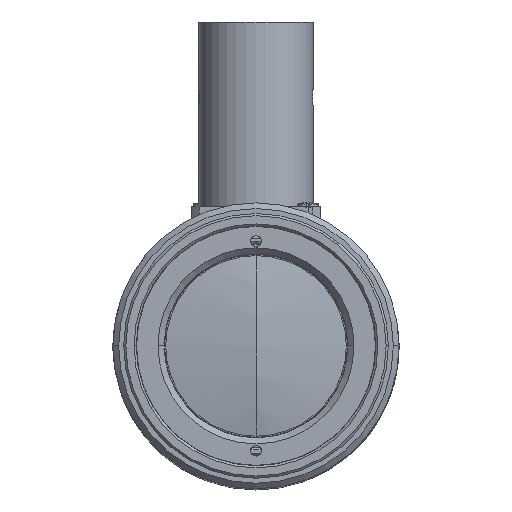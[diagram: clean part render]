
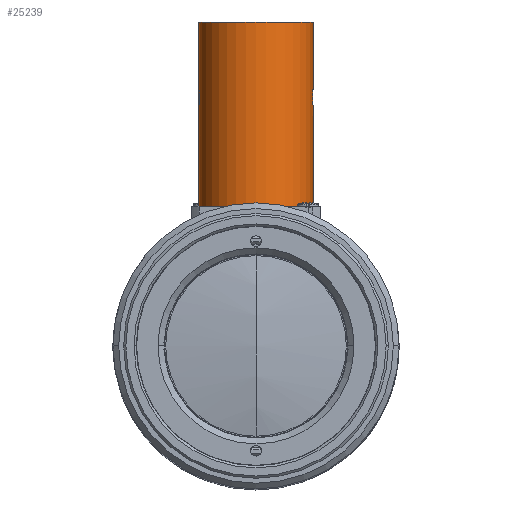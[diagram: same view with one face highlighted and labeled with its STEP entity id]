
A CAD part, top view. The second image highlights one B-rep face of the part: STEP entity #25239.
In plain terms, the highlighted cylindrical face has radius 8 mm (diameter 16 mm), a partial arc.
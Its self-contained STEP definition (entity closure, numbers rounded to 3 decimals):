
#488 = CARTESIAN_POINT ( 'NONE',  ( -7.964, 35.871, 13.29 ) ) ;
#774 = VECTOR ( 'NONE', #19567, 1000. ) ;
#1233 = CARTESIAN_POINT ( 'NONE',  ( 7.995, 33.637, 12.828 ) ) ;
#1378 = CARTESIAN_POINT ( 'NONE',  ( 7.907, 35.181, 13.718 ) ) ;
#1747 = CARTESIAN_POINT ( 'NONE',  ( -7.991, 33.663, 12.893 ) ) ;
#1808 = CARTESIAN_POINT ( 'NONE',  ( -8., 19.5, 12.5 ) ) ;
#1843 = VERTEX_POINT ( 'NONE', #9843 ) ;
#1886 = CARTESIAN_POINT ( 'NONE',  ( -7.998, 33.616, 12.699 ) ) ;
#2045 = CARTESIAN_POINT ( 'NONE',  ( -8., 33.604, 12.5 ) ) ;
#2373 = CARTESIAN_POINT ( 'NONE',  ( 0., 45.354, 12.5 ) ) ;
#2398 = EDGE_CURVE ( 'NONE', #19434, #10441, #12932, .T. ) ;
#2631 = LINE ( 'NONE', #22049, #14152 ) ;
#3216 = ORIENTED_EDGE ( 'NONE', *, *, #15074, .T. ) ;
#3239 = CARTESIAN_POINT ( 'NONE',  ( 8., 36.104, 12.5 ) ) ;
#3260 = CARTESIAN_POINT ( 'NONE',  ( -7.998, 36.092, 12.698 ) ) ;
#3520 = CARTESIAN_POINT ( 'NONE',  ( 7.964, 33.854, 13.268 ) ) ;
#3686 = CARTESIAN_POINT ( 'NONE',  ( -8., 36.104, 12.599 ) ) ;
#3815 = CARTESIAN_POINT ( 'NONE',  ( 0., 10.5, 12.5 ) ) ;
#5455 = B_SPLINE_CURVE_WITH_KNOTS ( 'NONE', 3,
 ( #20156, #488, #17725, #9046, #20449, #9181, #15550, #15823, #17994, #11205, #7711, #16515 ),
 .UNSPECIFIED., .F., .F.,
 ( 4, 2, 2, 2, 2, 4 ),
 ( 0.004, 0.004, 0.005, 0.005, 0.006, 0.006 ),
 .UNSPECIFIED. ) ;
#5515 = CARTESIAN_POINT ( 'NONE',  ( 7.995, 36.071, 12.83 ) ) ;
#5662 = DIRECTION ( 'NONE',  ( 0., -1., 0. ) ) ;
#5788 = B_SPLINE_CURVE_WITH_KNOTS ( 'NONE', 3,
 ( #17021, #8209, #1233, #21059, #3520, #23232, #9802, #9949, #21351, #12262, #27397, #7916, #1378, #20913, #27978, #25812, #23510, #5515, #10371, #3239 ),
 .UNSPECIFIED., .F., .F.,
 ( 4, 2, 2, 2, 2, 2, 2, 2, 2, 4 ),
 ( 0.004, 0.004, 0.005, 0.005, 0.005, 0.006, 0.006, 0.007, 0.007, 0.008 ),
 .UNSPECIFIED. ) ;
#5966 = VERTEX_POINT ( 'NONE', #2045 ) ;
#6838 = CARTESIAN_POINT ( 'NONE',  ( 8., 45.354, 12.5 ) ) ;
#7025 = EDGE_CURVE ( 'NONE', #5966, #13311, #2631, .T. ) ;
#7036 = EDGE_CURVE ( 'NONE', #17006, #27437, #5455, .T. ) ;
#7622 = ORIENTED_EDGE ( 'NONE', *, *, #27300, .F. ) ;
#7711 = CARTESIAN_POINT ( 'NONE',  ( -7.964, 33.837, 13.29 ) ) ;
#7799 = CARTESIAN_POINT ( 'NONE',  ( -8., 36.104, 12.5 ) ) ;
#7916 = CARTESIAN_POINT ( 'NONE',  ( 7.902, 35.018, 13.75 ) ) ;
#7947 = EDGE_CURVE ( 'NONE', #10073, #21986, #5788, .T. ) ;
#8116 = EDGE_LOOP ( 'NONE', ( #3216, #23405, #12919, #17223, #20434, #9414, #18852, #10542, #12099, #7622 ) ) ;
#8209 = CARTESIAN_POINT ( 'NONE',  ( 8., 33.604, 12.663 ) ) ;
#8962 = DIRECTION ( 'NONE',  ( 0., -1., 0. ) ) ;
#9046 = CARTESIAN_POINT ( 'NONE',  ( -7.911, 35.428, 13.693 ) ) ;
#9181 = CARTESIAN_POINT ( 'NONE',  ( -7.89, 35.094, 13.823 ) ) ;
#9262 = CIRCLE ( 'NONE', #15263, 8. ) ;
#9334 = DIRECTION ( 'NONE',  ( 0., -1., 0. ) ) ;
#9414 = ORIENTED_EDGE ( 'NONE', *, *, #7025, .T. ) ;
#9584 = B_SPLINE_CURVE_WITH_KNOTS ( 'NONE', 3,
 ( #7799, #3686, #3260, #15121, #28382, #9825 ),
 .UNSPECIFIED., .F., .F.,
 ( 4, 2, 4 ),
 ( 0.004, 0.004, 0.005 ),
 .UNSPECIFIED. ) ;
#9802 = CARTESIAN_POINT ( 'NONE',  ( 7.938, 34.091, 13.494 ) ) ;
#9825 = CARTESIAN_POINT ( 'NONE',  ( -7.98, 35.965, 13.072 ) ) ;
#9843 = CARTESIAN_POINT ( 'NONE',  ( 8., 19.5, 12.5 ) ) ;
#9949 = CARTESIAN_POINT ( 'NONE',  ( 7.926, 34.227, 13.584 ) ) ;
#10073 = VERTEX_POINT ( 'NONE', #13085 ) ;
#10092 = DIRECTION ( 'NONE',  ( 1., 0., 0. ) ) ;
#10312 = CARTESIAN_POINT ( 'NONE',  ( -7.986, 33.698, 12.985 ) ) ;
#10371 = CARTESIAN_POINT ( 'NONE',  ( 8., 36.104, 12.665 ) ) ;
#10441 = VERTEX_POINT ( 'NONE', #28337 ) ;
#10542 = ORIENTED_EDGE ( 'NONE', *, *, #12071, .F. ) ;
#10587 = CARTESIAN_POINT ( 'NONE',  ( -8., 33.604, 12.6 ) ) ;
#11205 = CARTESIAN_POINT ( 'NONE',  ( -7.94, 33.991, 13.487 ) ) ;
#11261 = CARTESIAN_POINT ( 'NONE',  ( 8., 10.5, 12.5 ) ) ;
#11310 = AXIS2_PLACEMENT_3D ( 'NONE', #2373, #17469, #26671 ) ;
#11756 = CARTESIAN_POINT ( 'NONE',  ( 8., 36.104, 12.5 ) ) ;
#12071 = EDGE_CURVE ( 'NONE', #10073, #1843, #25639, .T. ) ;
#12099 = ORIENTED_EDGE ( 'NONE', *, *, #7947, .T. ) ;
#12262 = CARTESIAN_POINT ( 'NONE',  ( 7.907, 34.526, 13.717 ) ) ;
#12407 = FACE_OUTER_BOUND ( 'NONE', #8116, .T. ) ;
#12919 = ORIENTED_EDGE ( 'NONE', *, *, #16280, .T. ) ;
#12932 = LINE ( 'NONE', #13227, #774 ) ;
#13085 = CARTESIAN_POINT ( 'NONE',  ( 8., 33.604, 12.5 ) ) ;
#13227 = CARTESIAN_POINT ( 'NONE',  ( -8., 10.5, 12.5 ) ) ;
#13311 = VERTEX_POINT ( 'NONE', #1808 ) ;
#13810 = CARTESIAN_POINT ( 'NONE',  ( 0., 19.5, 12.5 ) ) ;
#13864 = VECTOR ( 'NONE', #8962, 1000. ) ;
#13928 = VECTOR ( 'NONE', #16687, 1000. ) ;
#14097 = CIRCLE ( 'NONE', #11310, 8. ) ;
#14152 = VECTOR ( 'NONE', #9334, 1000. ) ;
#15074 = EDGE_CURVE ( 'NONE', #18307, #19434, #14097, .T. ) ;
#15121 = CARTESIAN_POINT ( 'NONE',  ( -7.991, 36.045, 12.892 ) ) ;
#15263 = AXIS2_PLACEMENT_3D ( 'NONE', #13810, #20727, #22612 ) ;
#15550 = CARTESIAN_POINT ( 'NONE',  ( -7.887, 34.976, 13.843 ) ) ;
#15664 = CARTESIAN_POINT ( 'NONE',  ( -7.98, 33.743, 13.072 ) ) ;
#15823 = CARTESIAN_POINT ( 'NONE',  ( -7.886, 34.617, 13.844 ) ) ;
#15932 = CARTESIAN_POINT ( 'NONE',  ( -7.98, 35.965, 13.072 ) ) ;
#16280 = EDGE_CURVE ( 'NONE', #10441, #17006, #9584, .T. ) ;
#16406 = CARTESIAN_POINT ( 'NONE',  ( 8., 10.5, 12.5 ) ) ;
#16515 = CARTESIAN_POINT ( 'NONE',  ( -7.98, 33.743, 13.072 ) ) ;
#16592 = CYLINDRICAL_SURFACE ( 'NONE', #18150, 8. ) ;
#16687 = DIRECTION ( 'NONE',  ( 0., -1., 0. ) ) ;
#17006 = VERTEX_POINT ( 'NONE', #15932 ) ;
#17021 = CARTESIAN_POINT ( 'NONE',  ( 8., 33.604, 12.5 ) ) ;
#17223 = ORIENTED_EDGE ( 'NONE', *, *, #7036, .T. ) ;
#17469 = DIRECTION ( 'NONE',  ( 0., -1., 0. ) ) ;
#17725 = CARTESIAN_POINT ( 'NONE',  ( -7.94, 35.719, 13.485 ) ) ;
#17994 = CARTESIAN_POINT ( 'NONE',  ( -7.901, 34.379, 13.763 ) ) ;
#18150 = AXIS2_PLACEMENT_3D ( 'NONE', #3815, #5662, #10092 ) ;
#18307 = VERTEX_POINT ( 'NONE', #6838 ) ;
#18852 = ORIENTED_EDGE ( 'NONE', *, *, #21297, .F. ) ;
#19387 = CARTESIAN_POINT ( 'NONE',  ( -8., 33.604, 12.5 ) ) ;
#19434 = VERTEX_POINT ( 'NONE', #27420 ) ;
#19567 = DIRECTION ( 'NONE',  ( 0., -1., 0. ) ) ;
#20068 = LINE ( 'NONE', #11261, #13864 ) ;
#20156 = CARTESIAN_POINT ( 'NONE',  ( -7.98, 35.965, 13.072 ) ) ;
#20434 = ORIENTED_EDGE ( 'NONE', *, *, #24462, .T. ) ;
#20449 = CARTESIAN_POINT ( 'NONE',  ( -7.902, 35.323, 13.748 ) ) ;
#20727 = DIRECTION ( 'NONE',  ( 0., -1., 0. ) ) ;
#20913 = CARTESIAN_POINT ( 'NONE',  ( 7.925, 35.483, 13.592 ) ) ;
#20999 = CARTESIAN_POINT ( 'NONE',  ( -7.98, 33.743, 13.072 ) ) ;
#21059 = CARTESIAN_POINT ( 'NONE',  ( 7.977, 33.761, 13.129 ) ) ;
#21297 = EDGE_CURVE ( 'NONE', #1843, #13311, #9262, .T. ) ;
#21351 = CARTESIAN_POINT ( 'NONE',  ( 7.921, 34.299, 13.623 ) ) ;
#21986 = VERTEX_POINT ( 'NONE', #11756 ) ;
#22049 = CARTESIAN_POINT ( 'NONE',  ( -8., 10.5, 12.5 ) ) ;
#22612 = DIRECTION ( 'NONE',  ( 1., 0., 0. ) ) ;
#23232 = CARTESIAN_POINT ( 'NONE',  ( 7.945, 34.027, 13.441 ) ) ;
#23405 = ORIENTED_EDGE ( 'NONE', *, *, #2398, .T. ) ;
#23510 = CARTESIAN_POINT ( 'NONE',  ( 7.977, 35.946, 13.13 ) ) ;
#24462 = EDGE_CURVE ( 'NONE', #27437, #5966, #27108, .T. ) ;
#25239 = ADVANCED_FACE ( 'NONE', ( #12407 ), #16592, .T. ) ;
#25639 = LINE ( 'NONE', #16406, #13928 ) ;
#25812 = CARTESIAN_POINT ( 'NONE',  ( 7.964, 35.852, 13.27 ) ) ;
#26671 = DIRECTION ( 'NONE',  ( 1., 0., 0. ) ) ;
#27108 = B_SPLINE_CURVE_WITH_KNOTS ( 'NONE', 3,
 ( #20999, #10312, #1747, #1886, #10587, #19387 ),
 .UNSPECIFIED., .F., .F.,
 ( 4, 2, 4 ),
 ( 0.007, 0.008, 0.008 ),
 .UNSPECIFIED. ) ;
#27300 = EDGE_CURVE ( 'NONE', #18307, #21986, #20068, .T. ) ;
#27397 = CARTESIAN_POINT ( 'NONE',  ( 7.902, 34.688, 13.75 ) ) ;
#27420 = CARTESIAN_POINT ( 'NONE',  ( -8., 45.354, 12.5 ) ) ;
#27437 = VERTEX_POINT ( 'NONE', #15664 ) ;
#27978 = CARTESIAN_POINT ( 'NONE',  ( 7.938, 35.622, 13.499 ) ) ;
#28337 = CARTESIAN_POINT ( 'NONE',  ( -8., 36.104, 12.5 ) ) ;
#28382 = CARTESIAN_POINT ( 'NONE',  ( -7.986, 36.011, 12.984 ) ) ;
